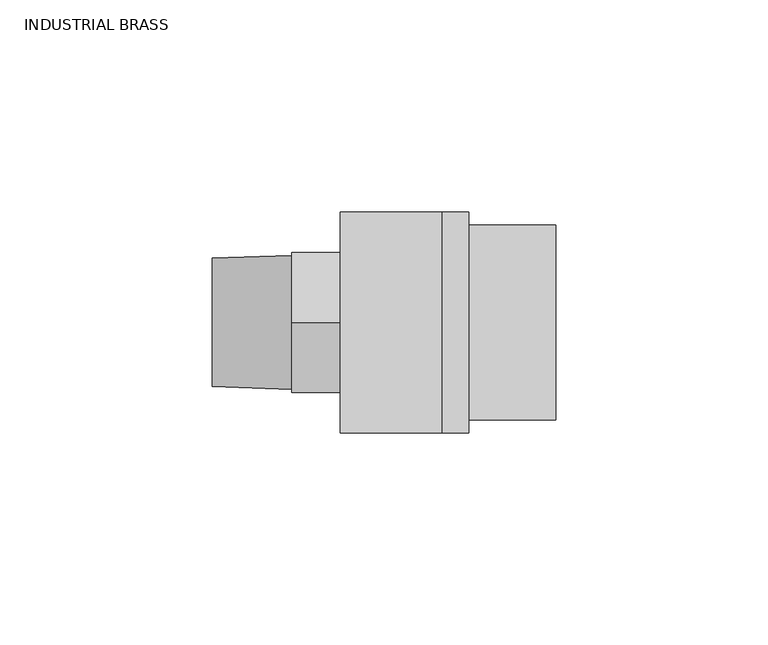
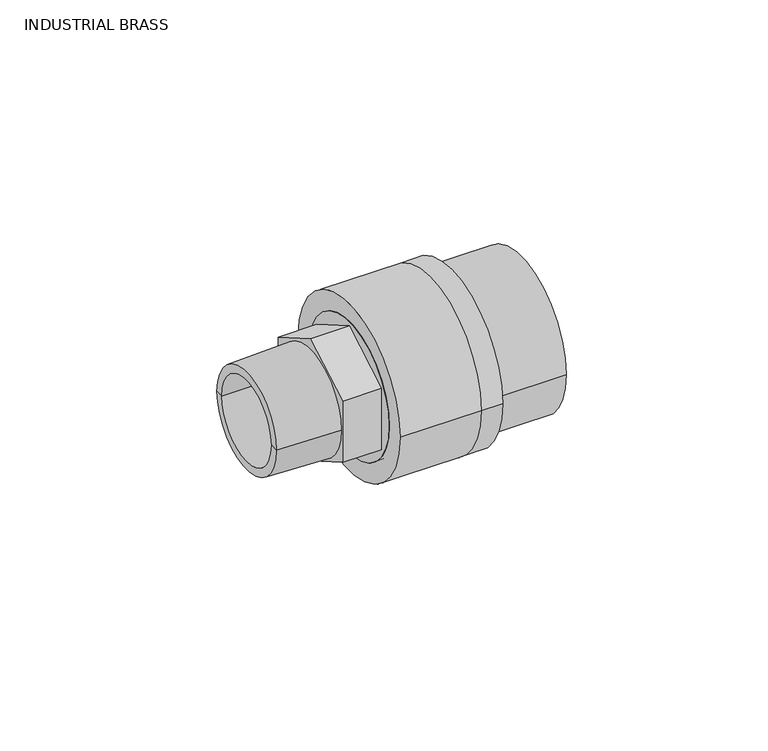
"""IFC4 building model written with IfcOpenShell, lengths in millimetres: valve geometry, Aquatherm - Transition Piece - M HEX : INDUSTRIAL BRASS."""

from ifc_helpers import new_model, si_unit, frame, origin, place, context, project, spatial, polyline, circle_curve, source, transform, mapped, element, save
from ifc_brep_helpers import plane_surface, cylinder_surface, revolved_surface, advanced_brep


def industrial_brass_65bdf2a1(model_context):
    return source(origin(), model_context, "Body", "AdvancedBrep", [
        advanced_brep(
        [(23.876, -20.32, 0.0), (23.876, 20.32, 0.0), (23.876, -12.7, 0.0), (23.876, 12.7, 0.0), (0.0, -20.32, 0.0), (0.0, 20.32, 0.0), (0.0, 0.0, -19.0641059), (0.0, 16.51, -9.5320529), (0.0, 16.51, 9.5320529), (0.0, 0.0, 19.0641059), (0.0, -16.51, 9.5320529), (0.0, -16.51, -9.5320529), (0.0, -12.7, 0.0), (0.0, 12.7, 0.0), (-11.43, 0.0, -19.0641059), (-11.43, -16.51, -9.5320529), (-11.43, -16.51, 9.5320529), (-11.43, 0.0, 19.0641059), (-11.43, 16.51, 9.5320529), (-11.43, 16.51, -9.5320529), (-11.43, -15.7776355, 0.0), (-11.43, 15.7776355, 0.0), (-11.43, -12.7, 0.0), (-11.43, 12.7, 0.0), (-30.226, 12.7, 0.0), (-30.226, -12.7, 0.0), (-30.226, 15.1786145, 0.0), (-30.226, -15.1786145, 0.0)],
        [
            (0, 1, circle_curve(frame((23.876, 0.0, 0.0), z_axis=(1.0, 0.0, 0.0), x_axis=(0.0, 1.0, 0.0)), 20.32)),
            (1, 0, circle_curve(frame((23.876, 0.0, 0.0), z_axis=(1.0, 0.0, 0.0), x_axis=(0.0, 1.0, 0.0)), 20.32)),
            (2, 3, circle_curve(frame((23.876, 0.0, 0.0), z_axis=(-1.0, 0.0, 0.0), x_axis=(0.0, 1.0, 0.0)), 12.7)),
            (3, 2, circle_curve(frame((23.876, 0.0, 0.0), z_axis=(-1.0, 0.0, 0.0), x_axis=(0.0, 1.0, 0.0)), 12.7)),
            (4, 5, circle_curve(frame((0.0, 0.0, 0.0), z_axis=(-1.0, 0.0, 0.0), x_axis=(0.0, 1.0, 0.0)), 20.32)),
            (5, 4, circle_curve(frame((0.0, 0.0, 0.0), z_axis=(-1.0, 0.0, 0.0), x_axis=(0.0, 1.0, 0.0)), 20.32)),
            (6, 7),
            (7, 8),
            (8, 9),
            (9, 10),
            (10, 11),
            (11, 6),
            (0, 4),
            (5, 1),
            (2, 12),
            (12, 13, circle_curve(frame((0.0, 0.0, 0.0), z_axis=(-1.0, 0.0, 0.0), x_axis=(0.0, 1.0, 0.0)), 12.7)),
            (13, 3),
            (13, 12, circle_curve(frame((0.0, 0.0, 0.0), z_axis=(-1.0, 0.0, 0.0), x_axis=(0.0, 1.0, 0.0)), 12.7)),
            (14, 15),
            (15, 16),
            (16, 17),
            (17, 18),
            (18, 19),
            (19, 14),
            (20, 21, circle_curve(frame((-11.43, 0.0, 0.0), z_axis=(1.0, 0.0, 0.0), x_axis=(0.0, 1.0, 0.0)), 15.7776355)),
            (21, 20, circle_curve(frame((-11.43, 0.0, 0.0), z_axis=(1.0, 0.0, 0.0), x_axis=(0.0, 1.0, 0.0)), 15.7776355)),
            (19, 7),
            (6, 14),
            (18, 8),
            (17, 9),
            (16, 10),
            (15, 11),
            (12, 22),
            (22, 23, circle_curve(frame((-11.43, 0.0, 0.0), z_axis=(-1.0, 0.0, 0.0), x_axis=(0.0, 1.0, 0.0)), 12.7)),
            (23, 13),
            (23, 22, circle_curve(frame((-11.43, 0.0, 0.0), z_axis=(-1.0, 0.0, 0.0), x_axis=(0.0, 1.0, 0.0)), 12.7)),
            (23, 24),
            (24, 25, circle_curve(frame((-30.226, 0.0, 0.0), z_axis=(-1.0, 0.0, 0.0), x_axis=(0.0, 1.0, 0.0)), 12.7)),
            (25, 22),
            (25, 24, circle_curve(frame((-30.226, 0.0, 0.0), z_axis=(-1.0, 0.0, 0.0), x_axis=(0.0, 1.0, 0.0)), 12.7)),
            (24, 26),
            (26, 27, circle_curve(frame((-30.226, 0.0, 0.0), z_axis=(-1.0, 0.0, 0.0), x_axis=(0.0, 1.0, 0.0)), 15.1786145)),
            (27, 25),
            (27, 26, circle_curve(frame((-30.226, 0.0, 0.0), z_axis=(-1.0, 0.0, 0.0), x_axis=(0.0, 1.0, 0.0)), 15.1786145)),
            (26, 21),
            (20, 27),
        ],
        [
            plane_surface(frame((23.876, 20.32, 0.0), z_axis=(1.0, 0.0, 0.0), x_axis=(0.0, 0.0, 1.0))),
            plane_surface(frame((0.0, 20.32, 0.0), z_axis=(-1.0, 0.0, 0.0), x_axis=(0.0, 0.0, -1.0))),
            cylinder_surface(frame((0.0, 0.0, 0.0), z_axis=(1.0, 0.0, 0.0), x_axis=(0.0, 1.0, 0.0)), 20.32),
            revolved_surface(polyline([(0.0, 12.7, 0.0), (23.876, 12.7, 0.0)]), (17.447219, 0.0, 0.0), (-1.0, 0.0, 0.0)),
            plane_surface(frame((-11.43, 0.0, -19.0641059), z_axis=(-1.0, 0.0, 0.0), x_axis=(0.0, -0.8660254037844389, -0.4999999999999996))),
            plane_surface(frame((0.0, 0.0, -19.0641059), z_axis=(0.0, 0.4999999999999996, -0.8660254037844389), x_axis=(-1.0, 0.0, 0.0))),
            plane_surface(frame((0.0, 16.51, -9.5320529), z_axis=(0.0, 1.0, 0.0), x_axis=(-1.0, 0.0, 0.0))),
            plane_surface(frame((0.0, 16.51, 9.5320529), z_axis=(0.0, 0.499999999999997, 0.8660254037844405), x_axis=(-1.0, 0.0, 0.0))),
            plane_surface(frame((0.0, 0.0, 19.0641059), z_axis=(0.0, -0.5000000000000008, 0.8660254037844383), x_axis=(-1.0, 0.0, 0.0))),
            plane_surface(frame((0.0, -16.51, 9.5320529), z_axis=(0.0, -1.0, 0.0), x_axis=(-1.0, 0.0, 0.0))),
            plane_surface(frame((0.0, -16.51, -9.5320529), z_axis=(0.0, -0.499999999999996, -0.866025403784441), x_axis=(-1.0, 0.0, 0.0))),
            revolved_surface(polyline([(-11.43, 12.7, 0.0), (0.0, 12.7, 0.0)]), (0.0, 0.0, 0.0), (-1.0, 0.0, 0.0)),
            revolved_surface(polyline([(-30.226, 12.7, 0.0), (-11.43, 12.7, 0.0)]), (-65.0990688, 0.0, 0.0), (-1.0, 0.0, 0.0)),
            plane_surface(frame((-30.226, 0.0, 0.0), z_axis=(-1.0, 0.0, 0.0), x_axis=(0.0, 1.0, 0.0))),
            revolved_surface(polyline([(-11.43, 15.7776355, 0.0), (-30.226, 15.1786145, 0.0)]), (-65.0990688, 0.0, 0.0), (-1.0, 0.0, 0.0)),
        ],
        [
            (0, [[1, 2], [3, 4]]),
            (1, [[5, 6], [7, 8, 9, 10, 11, 12]]),
            (2, [[-1, 13, -6, 14]]),
            (2, [[-2, -14, -5, -13]]),
            (3, [[-3, 15, 16, 17]]),
            (3, [[-4, -17, 18, -15]]),
            (4, [[19, 20, 21, 22, 23, 24], [25, 26]]),
            (5, [[-24, 27, -7, 28]]),
            (6, [[-23, 29, -8, -27]]),
            (7, [[-22, 30, -9, -29]]),
            (8, [[-21, 31, -10, -30]]),
            (9, [[-20, 32, -11, -31]]),
            (10, [[-19, -28, -12, -32]]),
            (11, [[33, 34, 35, -16]]),
            (11, [[-33, -18, -35, 36]]),
            (12, [[37, 38, 39, -36]]),
            (12, [[-37, -34, -39, 40]]),
            (13, [[-38, 41, 42, 43]]),
            (13, [[-40, -43, 44, -41]]),
            (14, [[-42, 45, -25, 46]]),
            (14, [[-44, -46, -26, -45]]),
        ],
    ),
        advanced_brep(
        [(0.0, -26.035, 0.0), (0.0, 26.035, 0.0), (0.0, -20.32, 0.0), (0.0, 20.32, 0.0), (23.876, 26.035, 0.0), (23.876, -26.035, 0.0), (23.876, 20.32, 0.0), (23.876, -20.32, 0.0), (30.226, -26.035, 0.0), (30.226, 26.035, 0.0), (30.226, 22.987, 0.0), (30.226, -22.987, 0.0), (30.226, 19.939, 0.0), (30.226, -19.939, 0.0), (30.226, -15.875, 0.0), (30.226, 15.875, 0.0), (23.876, -15.875, 0.0), (23.876, 15.875, 0.0), (50.8, -22.987, 0.0), (50.8, 22.987, 0.0), (50.8, -19.939, 0.0), (50.8, 19.939, 0.0)],
        [
            (0, 1, circle_curve(frame((0.0, 0.0, 0.0), z_axis=(-1.0, 0.0, 0.0), x_axis=(0.0, 1.0, 0.0)), 26.035)),
            (1, 0, circle_curve(frame((0.0, 0.0, 0.0), z_axis=(-1.0, 0.0, 0.0), x_axis=(0.0, 1.0, 0.0)), 26.035)),
            (2, 3, circle_curve(frame((0.0, 0.0, 0.0), z_axis=(1.0, 0.0, 0.0), x_axis=(0.0, 1.0, 0.0)), 20.32)),
            (3, 2, circle_curve(frame((0.0, 0.0, 0.0), z_axis=(1.0, 0.0, 0.0), x_axis=(0.0, 1.0, 0.0)), 20.32)),
            (1, 4),
            (4, 5, circle_curve(frame((23.876, 0.0, 0.0), z_axis=(-1.0, 0.0, 0.0), x_axis=(0.0, 1.0, 0.0)), 26.035)),
            (5, 0),
            (5, 4, circle_curve(frame((23.876, 0.0, 0.0), z_axis=(-1.0, 0.0, 0.0), x_axis=(0.0, 1.0, 0.0)), 26.035)),
            (3, 6),
            (6, 7, circle_curve(frame((23.876, 0.0, 0.0), z_axis=(1.0, 0.0, 0.0), x_axis=(0.0, 1.0, 0.0)), 20.32)),
            (7, 2),
            (7, 6, circle_curve(frame((23.876, 0.0, 0.0), z_axis=(1.0, 0.0, 0.0), x_axis=(0.0, 1.0, 0.0)), 20.32)),
            (8, 9, circle_curve(frame((30.226, 0.0, 0.0), z_axis=(1.0, 0.0, 0.0), x_axis=(0.0, 1.0, 0.0)), 26.035)),
            (9, 8, circle_curve(frame((30.226, 0.0, 0.0), z_axis=(1.0, 0.0, 0.0), x_axis=(0.0, 1.0, 0.0)), 26.035)),
            (10, 11, circle_curve(frame((30.226, 0.0, 0.0), z_axis=(-1.0, 0.0, 0.0), x_axis=(0.0, 1.0, 0.0)), 22.987)),
            (11, 10, circle_curve(frame((30.226, 0.0, 0.0), z_axis=(-1.0, 0.0, 0.0), x_axis=(0.0, 1.0, 0.0)), 22.987)),
            (12, 13, circle_curve(frame((30.226, 0.0, 0.0), z_axis=(1.0, 0.0, 0.0), x_axis=(0.0, 1.0, 0.0)), 19.939)),
            (13, 12, circle_curve(frame((30.226, 0.0, 0.0), z_axis=(1.0, 0.0, 0.0), x_axis=(0.0, 1.0, 0.0)), 19.939)),
            (14, 15, circle_curve(frame((30.226, 0.0, 0.0), z_axis=(-1.0, 0.0, 0.0), x_axis=(0.0, 1.0, 0.0)), 15.875)),
            (15, 14, circle_curve(frame((30.226, 0.0, 0.0), z_axis=(-1.0, 0.0, 0.0), x_axis=(0.0, 1.0, 0.0)), 15.875)),
            (16, 17, circle_curve(frame((23.876, 0.0, 0.0), z_axis=(1.0, 0.0, 0.0), x_axis=(0.0, 1.0, 0.0)), 15.875)),
            (17, 16, circle_curve(frame((23.876, 0.0, 0.0), z_axis=(1.0, 0.0, 0.0), x_axis=(0.0, 1.0, 0.0)), 15.875)),
            (8, 5),
            (4, 9),
            (14, 16),
            (17, 15),
            (18, 19, circle_curve(frame((50.8, 0.0, 0.0), z_axis=(1.0, 0.0, 0.0), x_axis=(0.0, 1.0, 0.0)), 22.987)),
            (19, 18, circle_curve(frame((50.8, 0.0, 0.0), z_axis=(1.0, 0.0, 0.0), x_axis=(0.0, 1.0, 0.0)), 22.987)),
            (20, 21, circle_curve(frame((50.8, 0.0, 0.0), z_axis=(-1.0, 0.0, 0.0), x_axis=(0.0, 1.0, 0.0)), 19.939)),
            (21, 20, circle_curve(frame((50.8, 0.0, 0.0), z_axis=(-1.0, 0.0, 0.0), x_axis=(0.0, 1.0, 0.0)), 19.939)),
            (18, 11),
            (10, 19),
            (20, 13),
            (12, 21),
        ],
        [
            plane_surface(frame((0.0, 26.035, 0.0), z_axis=(-1.0, 0.0, 0.0), x_axis=(0.0, 0.0, -1.0))),
            cylinder_surface(frame((0.0, 0.0, 0.0), z_axis=(1.0, 0.0, 0.0), x_axis=(0.0, 1.0, 0.0)), 26.035),
            revolved_surface(polyline([(0.0, 20.32, 0.0), (23.875999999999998, 20.32, 0.0)]), (-38.1, 0.0, 0.0), (-1.0, 0.0, 0.0)),
            plane_surface(frame((30.226, 26.035, 0.0), z_axis=(1.0, 0.0, 0.0), x_axis=(0.0, 0.0, 1.0))),
            plane_surface(frame((23.876, 26.035, 0.0), z_axis=(-1.0, 0.0, 0.0), x_axis=(0.0, 0.0, -1.0))),
            cylinder_surface(frame((23.876, 0.0, 0.0), z_axis=(1.0, 0.0, 0.0), x_axis=(0.0, 1.0, 0.0)), 26.035),
            revolved_surface(polyline([(23.876, 15.875, 0.0), (30.225999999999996, 15.875, 0.0)]), (-19.05, 0.0, 0.0), (-1.0, 0.0, 0.0)),
            plane_surface(frame((50.8, 22.987, 0.0), z_axis=(1.0, 0.0, 0.0), x_axis=(0.0, 0.0, 1.0))),
            cylinder_surface(frame((30.226, 0.0, 0.0), z_axis=(1.0, 0.0, 0.0), x_axis=(0.0, 1.0, 0.0)), 22.987),
            revolved_surface(polyline([(30.226, 19.939, 0.0), (50.8, 19.939, 0.0)]), (0.0, 0.0, 0.0), (-1.0, 0.0, 0.0)),
        ],
        [
            (0, [[1, 2], [3, 4]]),
            (1, [[-2, 5, 6, 7]]),
            (1, [[-1, -7, 8, -5]]),
            (2, [[-4, 9, 10, 11]]),
            (2, [[-3, -11, 12, -9]]),
            (3, [[13, 14], [15, 16]]),
            (3, [[17, 18], [19, 20]]),
            (4, [[-10, -12], [21, 22]]),
            (5, [[-13, 23, -6, 24]]),
            (5, [[-14, -24, -8, -23]]),
            (6, [[-19, 25, -22, 26]]),
            (6, [[-20, -26, -21, -25]]),
            (7, [[27, 28], [29, 30]]),
            (8, [[-27, 31, -15, 32]]),
            (8, [[-28, -32, -16, -31]]),
            (9, [[-29, 33, -17, 34]]),
            (9, [[-30, -34, -18, -33]]),
        ],
    ),
    ])


if __name__ == "__main__":
    model = new_model("IFC4")
    model_context = context("Model", 3, world=origin())
    ifc_project = project(units=[si_unit("LENGTHUNIT", "METRE", prefix="MILLI")], contexts=[model_context])
    site = spatial("IfcSite", under=ifc_project)
    building = spatial("IfcBuilding", under=site)
    placement = place(None, origin())
    industrial_brass_shape = industrial_brass_65bdf2a1(model_context)
    element("IfcValve", 1, ObjectType="Aquatherm - Transition Piece - M HEX : INDUSTRIAL BRASS", at=placement, inside=building, context=model_context, shape_type="MappedRepresentation", body=[
        mapped(industrial_brass_shape, transform((0.0, 0.0, 0.0), x_axis=(1.0, 0.0, 0.0), y_axis=(0.0, 1.0, 0.0), z_axis=(0.0, 0.0, 1.0))),
    ])
    save(model, "model.ifc")
